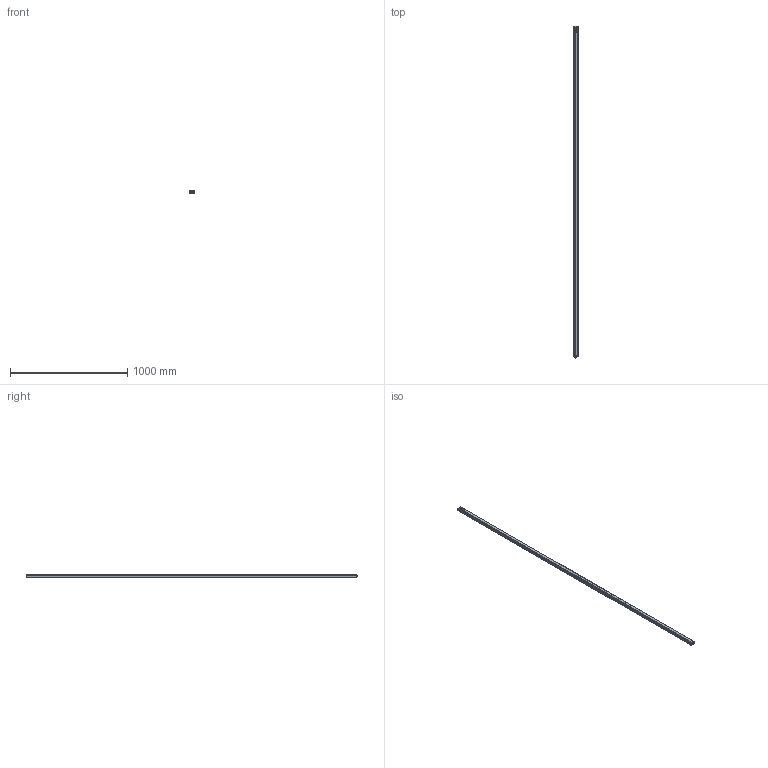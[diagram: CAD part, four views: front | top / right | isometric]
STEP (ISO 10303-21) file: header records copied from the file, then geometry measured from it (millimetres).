
FILE_DESCRIPTION(/* description */ (''),/* implementation_level */ '2;1');
FILE_NAME(/* name */ 'C:\Users\andre\SynologyDrive\Optoscan\Libreria Componenti\00 - Barriere\Barriera sorgente\Argo_2800_TX.stp',/* time_stamp */ '2021-04-23T12:45:44+02:00',/* author */ ('andre'),/* organization */ (''),/* preprocessor_version */ 'ST-DEVELOPER v18',/* originating_system */ 'Autodesk Inventor 2020',/* authorisation */ '');
FILE_SCHEMA (('AUTOMOTIVE_DESIGN { 1 0 10303 214 3 1 1 }'));
Length unit declared in the file: millimetre
Products named in the file (1): Argo_2800_TX
Bounding box: 40.5 x 2833.3 x 20.75 mm (x, y, z)
Volume: 556269.1 mm3; surface area: 735257.5 mm2
Topology: 1 solids, 1 shells, 680 faces, 1867 edges, 1193 vertices
Faces by surface type: plane 317, cylinder 191, bspline 94, torus 64, cone 8, sphere 6
Full cylindrical faces by diameter (mm): 1 x4, 2.5 x4, 3 x4, 3.5 x4, 5.5 x4, 8 x1, 10.5 x2, 11.75 x9, 15.7 x1, 17.5 x1
Entity records: 30188 total; most frequent: CARTESIAN_POINT 12578, ORIENTED_EDGE 3718, DIRECTION 3299, EDGE_CURVE 1859, VERTEX_POINT 1193, AXIS2_PLACEMENT_3D 1137, LINE 1025, VECTOR 1025
